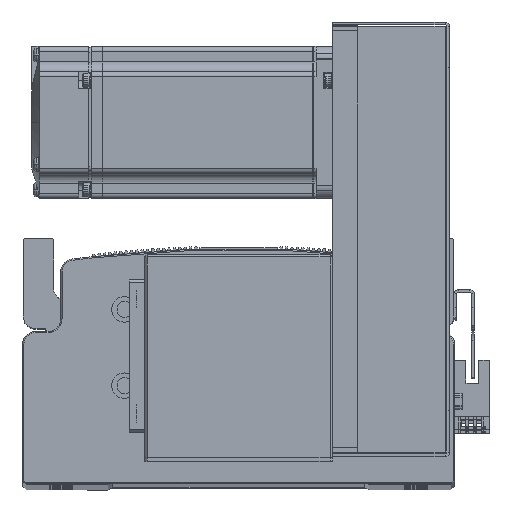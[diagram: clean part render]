
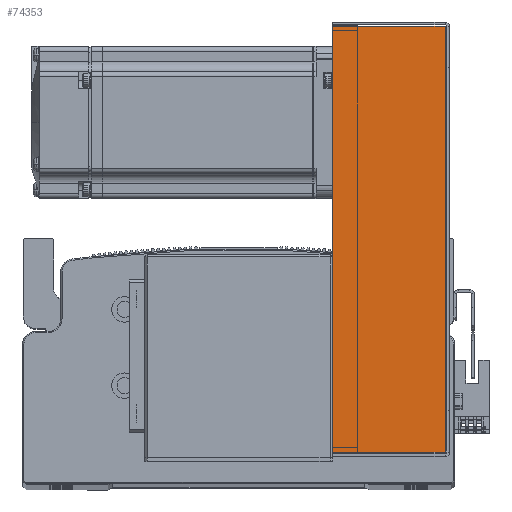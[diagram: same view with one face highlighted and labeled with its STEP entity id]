
A CAD part, top view. The second image highlights one B-rep face of the part: STEP entity #74353.
In plain terms, the highlighted planar face has unit normal (0, 0, 1).
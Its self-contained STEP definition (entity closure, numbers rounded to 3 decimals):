
#9511 = DIRECTION ( 'NONE',  ( -1., 0., 0. ) ) ;
#9541 = DIRECTION ( 'NONE',  ( 0., 0., -1. ) ) ;
#9545 = PLANE ( 'NONE',  #10724 ) ;
#9546 = CARTESIAN_POINT ( 'NONE',  ( 0., 0., 40.5 ) ) ;
#10724 = AXIS2_PLACEMENT_3D ( 'NONE', #9546, #9541, #9511 ) ;
#12580 = FACE_OUTER_BOUND ( 'NONE', #85293, .T. ) ;
#15132 = VERTEX_POINT ( 'NONE', #49369 ) ;
#15179 = VERTEX_POINT ( 'NONE', #49412 ) ;
#15188 = VERTEX_POINT ( 'NONE', #49485 ) ;
#15198 = VERTEX_POINT ( 'NONE', #49435 ) ;
#29016 = EDGE_CURVE ( 'NONE', #15179, #15132, #46003, .T. ) ;
#29083 = EDGE_CURVE ( 'NONE', #15132, #15188, #46247, .T. ) ;
#29086 = EDGE_CURVE ( 'NONE', #15179, #15198, #46170, .T. ) ;
#33859 = LINE ( 'NONE', #34187, #33893 ) ;
#33893 = VECTOR ( 'NONE', #34179, 1000. ) ;
#34179 = DIRECTION ( 'NONE',  ( -1., 0., 0. ) ) ;
#34187 = CARTESIAN_POINT ( 'NONE',  ( -84.5, 45., 40.5 ) ) ;
#36134 = CARTESIAN_POINT ( 'NONE',  ( 0., 0.737, 40.5 ) ) ;
#36215 = DIRECTION ( 'NONE',  ( -1., 0., 0. ) ) ;
#36345 = DIRECTION ( 'NONE',  ( 0., 1., 0. ) ) ;
#36351 = DIRECTION ( 'NONE',  ( 0., 1., 0. ) ) ;
#36370 = CARTESIAN_POINT ( 'NONE',  ( -83.793, 0., 40.5 ) ) ;
#36375 = CARTESIAN_POINT ( 'NONE',  ( 83.793, 0., 40.5 ) ) ;
#44211 = EDGE_CURVE ( 'NONE', #15198, #15188, #33859, .T. ) ;
#46003 = LINE ( 'NONE', #36134, #46070 ) ;
#46070 = VECTOR ( 'NONE', #36215, 1000. ) ;
#46170 = LINE ( 'NONE', #36375, #46174 ) ;
#46174 = VECTOR ( 'NONE', #36345, 1000. ) ;
#46247 = LINE ( 'NONE', #36370, #46249 ) ;
#46249 = VECTOR ( 'NONE', #36351, 1000. ) ;
#49369 = CARTESIAN_POINT ( 'NONE',  ( -83.793, 0.737, 40.5 ) ) ;
#49412 = CARTESIAN_POINT ( 'NONE',  ( 83.793, 0.737, 40.5 ) ) ;
#49435 = CARTESIAN_POINT ( 'NONE',  ( 83.793, 45., 40.5 ) ) ;
#49485 = CARTESIAN_POINT ( 'NONE',  ( -83.793, 45., 40.5 ) ) ;
#66985 = ORIENTED_EDGE ( 'NONE', *, *, #29083, .F. ) ;
#67005 = ORIENTED_EDGE ( 'NONE', *, *, #29086, .T. ) ;
#67017 = ORIENTED_EDGE ( 'NONE', *, *, #29016, .F. ) ;
#67027 = ORIENTED_EDGE ( 'NONE', *, *, #44211, .T. ) ;
#74353 = ADVANCED_FACE ( 'NONE', ( #12580 ), #9545, .F. ) ;
#85293 = EDGE_LOOP ( 'NONE', ( #67017, #67005, #67027, #66985 ) ) ;
